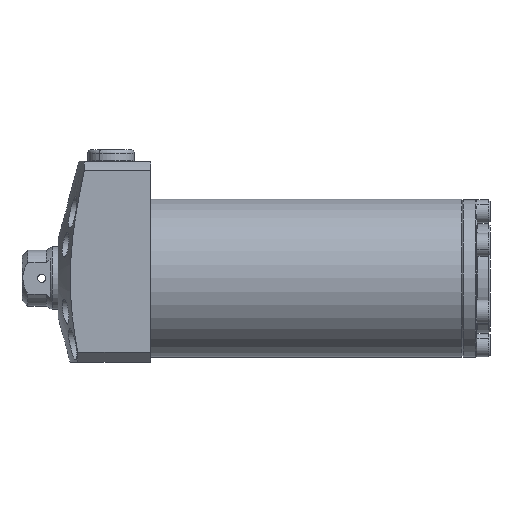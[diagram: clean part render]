
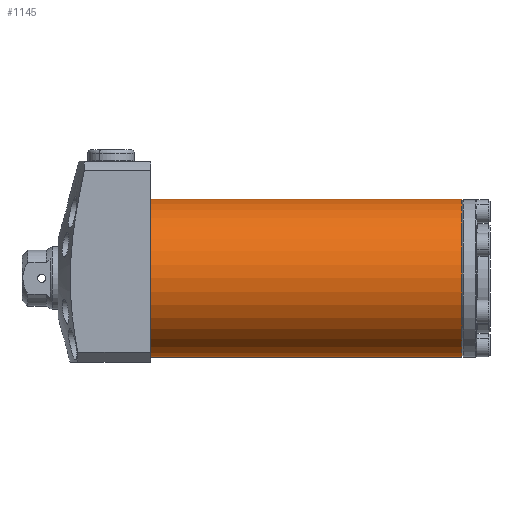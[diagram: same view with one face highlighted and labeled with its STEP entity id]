
A CAD part, left-side view. The second image highlights one B-rep face of the part: STEP entity #1145.
In plain terms, the highlighted cylindrical face has radius 24 mm (diameter 48 mm), a partial arc.
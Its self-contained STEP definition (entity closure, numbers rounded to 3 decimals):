
#511 = CYLINDRICAL_SURFACE ( 'NONE', #6523, 24. ) ;
#645 = DIRECTION ( 'NONE',  ( 0., 1., 0. ) ) ;
#940 = CARTESIAN_POINT ( 'NONE',  ( 0., -94.5, 0. ) ) ;
#1100 = CIRCLE ( 'NONE', #7097, 24. ) ;
#1145 = ADVANCED_FACE ( 'NONE', ( #5677 ), #511, .T. ) ;
#1331 = CARTESIAN_POINT ( 'NONE',  ( 0., -94.5, -24. ) ) ;
#1433 = EDGE_CURVE ( 'NONE', #6341, #2408, #3974, .T. ) ;
#1546 = DIRECTION ( 'NONE',  ( 0., 0., 1. ) ) ;
#2072 = ORIENTED_EDGE ( 'NONE', *, *, #3586, .T. ) ;
#2303 = EDGE_CURVE ( 'NONE', #3271, #6329, #6646, .T. ) ;
#2408 = VERTEX_POINT ( 'NONE', #4936 ) ;
#2519 = ORIENTED_EDGE ( 'NONE', *, *, #6786, .F. ) ;
#2833 = DIRECTION ( 'NONE',  ( 0., 1., 0. ) ) ;
#3083 = DIRECTION ( 'NONE',  ( 0., 1., 0. ) ) ;
#3095 = CARTESIAN_POINT ( 'NONE',  ( 0., 0., 24. ) ) ;
#3271 = VERTEX_POINT ( 'NONE', #7724 ) ;
#3361 = DIRECTION ( 'NONE',  ( 0., 0., 1. ) ) ;
#3586 = EDGE_CURVE ( 'NONE', #6341, #3271, #5231, .T. ) ;
#3942 = CARTESIAN_POINT ( 'NONE',  ( 0., -94.5, 0. ) ) ;
#3965 = AXIS2_PLACEMENT_3D ( 'NONE', #940, #5142, #1546 ) ;
#3974 = LINE ( 'NONE', #6087, #5945 ) ;
#4096 = DIRECTION ( 'NONE',  ( 0., 1., 0. ) ) ;
#4236 = CARTESIAN_POINT ( 'NONE',  ( 0., 0., 0. ) ) ;
#4623 = ORIENTED_EDGE ( 'NONE', *, *, #1433, .F. ) ;
#4836 = DIRECTION ( 'NONE',  ( 0., 0., 1. ) ) ;
#4936 = CARTESIAN_POINT ( 'NONE',  ( 0., 0., -24. ) ) ;
#5068 = VECTOR ( 'NONE', #4096, 1000. ) ;
#5142 = DIRECTION ( 'NONE',  ( 0., 1., 0. ) ) ;
#5231 = CIRCLE ( 'NONE', #3965, 24. ) ;
#5588 = ORIENTED_EDGE ( 'NONE', *, *, #2303, .T. ) ;
#5632 = EDGE_LOOP ( 'NONE', ( #4623, #2072, #5588, #2519 ) ) ;
#5677 = FACE_OUTER_BOUND ( 'NONE', #5632, .T. ) ;
#5945 = VECTOR ( 'NONE', #3083, 1000. ) ;
#6087 = CARTESIAN_POINT ( 'NONE',  ( 0., -94.5, -24. ) ) ;
#6329 = VERTEX_POINT ( 'NONE', #3095 ) ;
#6341 = VERTEX_POINT ( 'NONE', #1331 ) ;
#6523 = AXIS2_PLACEMENT_3D ( 'NONE', #3942, #2833, #3361 ) ;
#6646 = LINE ( 'NONE', #7695, #5068 ) ;
#6786 = EDGE_CURVE ( 'NONE', #2408, #6329, #1100, .T. ) ;
#7097 = AXIS2_PLACEMENT_3D ( 'NONE', #4236, #645, #4836 ) ;
#7695 = CARTESIAN_POINT ( 'NONE',  ( 0., -94.5, 24. ) ) ;
#7724 = CARTESIAN_POINT ( 'NONE',  ( 0., -94.5, 24. ) ) ;
